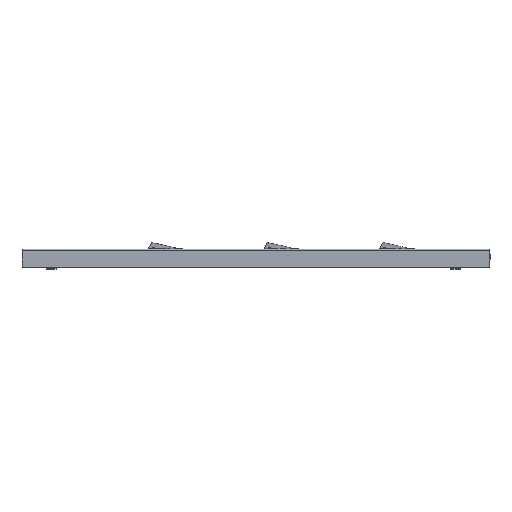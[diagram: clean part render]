
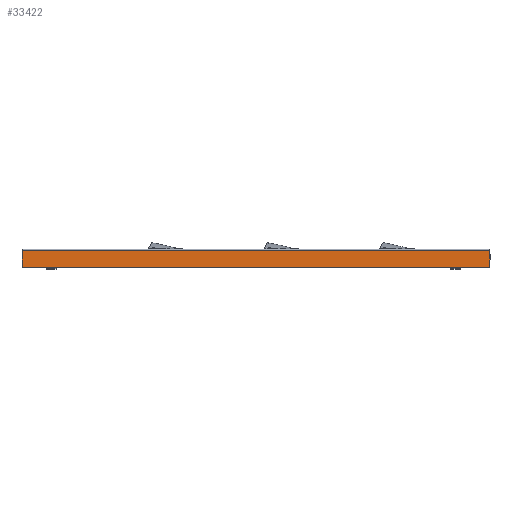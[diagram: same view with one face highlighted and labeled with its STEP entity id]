
A CAD part, left-side view. The second image highlights one B-rep face of the part: STEP entity #33422.
In plain terms, the highlighted planar face has unit normal (-1, 0, 0).
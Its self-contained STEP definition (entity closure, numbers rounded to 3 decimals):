
#928 = VECTOR ( 'NONE', #25845, 1000. ) ;
#1368 = PLANE ( 'NONE',  #5603 ) ;
#2297 = LINE ( 'NONE', #33043, #20428 ) ;
#3576 = CARTESIAN_POINT ( 'NONE',  ( -317.5, 1820., -5. ) ) ;
#5437 = EDGE_CURVE ( 'NONE', #9247, #35333, #2297, .T. ) ;
#5603 = AXIS2_PLACEMENT_3D ( 'NONE', #26162, #31072, #6988 ) ;
#6020 = CIRCLE ( 'NONE', #18166, 3. ) ;
#6210 = VERTEX_POINT ( 'NONE', #24186 ) ;
#6293 = LINE ( 'NONE', #8827, #12535 ) ;
#6850 = CARTESIAN_POINT ( 'NONE',  ( -317.5, 1820., -5. ) ) ;
#6924 = ORIENTED_EDGE ( 'NONE', *, *, #5437, .T. ) ;
#6988 = DIRECTION ( 'NONE',  ( 0., 0., -1. ) ) ;
#7162 = DIRECTION ( 'NONE',  ( 0., 0., 1. ) ) ;
#8308 = ORIENTED_EDGE ( 'NONE', *, *, #31770, .F. ) ;
#8827 = CARTESIAN_POINT ( 'NONE',  ( -317.5, 1820., -70. ) ) ;
#9247 = VERTEX_POINT ( 'NONE', #29229 ) ;
#10308 = EDGE_CURVE ( 'NONE', #20600, #9247, #6020, .T. ) ;
#10398 = VERTEX_POINT ( 'NONE', #6850 ) ;
#11295 = VECTOR ( 'NONE', #7162, 1000. ) ;
#11761 = CARTESIAN_POINT ( 'NONE',  ( -317.5, 0., -67. ) ) ;
#11818 = CIRCLE ( 'NONE', #22775, 3. ) ;
#12135 = ORIENTED_EDGE ( 'NONE', *, *, #10308, .T. ) ;
#12535 = VECTOR ( 'NONE', #31254, 1000. ) ;
#13229 = ORIENTED_EDGE ( 'NONE', *, *, #17110, .T. ) ;
#13346 = DIRECTION ( 'NONE',  ( 0., -1., 0. ) ) ;
#14183 = ORIENTED_EDGE ( 'NONE', *, *, #23001, .T. ) ;
#14672 = CARTESIAN_POINT ( 'NONE',  ( -317.5, 1820., -67. ) ) ;
#15894 = DIRECTION ( 'NONE',  ( -1., 0., 0. ) ) ;
#17110 = EDGE_CURVE ( 'NONE', #35333, #30505, #11818, .T. ) ;
#18166 = AXIS2_PLACEMENT_3D ( 'NONE', #29639, #15894, #34722 ) ;
#19213 = EDGE_LOOP ( 'NONE', ( #6924, #13229, #14183, #8308, #20315, #12135 ) ) ;
#20315 = ORIENTED_EDGE ( 'NONE', *, *, #28612, .F. ) ;
#20428 = VECTOR ( 'NONE', #13346, 1000. ) ;
#20600 = VERTEX_POINT ( 'NONE', #14672 ) ;
#21021 = CARTESIAN_POINT ( 'NONE',  ( -317.5, 3., -67. ) ) ;
#22775 = AXIS2_PLACEMENT_3D ( 'NONE', #21021, #26802, #32591 ) ;
#23001 = EDGE_CURVE ( 'NONE', #30505, #6210, #32145, .T. ) ;
#24186 = CARTESIAN_POINT ( 'NONE',  ( -317.5, 0., -5. ) ) ;
#25845 = DIRECTION ( 'NONE',  ( 0., -1., 0. ) ) ;
#26162 = CARTESIAN_POINT ( 'NONE',  ( -317.5, 1820., -70. ) ) ;
#26802 = DIRECTION ( 'NONE',  ( -1., 0., 0. ) ) ;
#28537 = LINE ( 'NONE', #3576, #928 ) ;
#28612 = EDGE_CURVE ( 'NONE', #20600, #10398, #6293, .T. ) ;
#29229 = CARTESIAN_POINT ( 'NONE',  ( -317.5, 1817., -70. ) ) ;
#29639 = CARTESIAN_POINT ( 'NONE',  ( -317.5, 1817., -67. ) ) ;
#30505 = VERTEX_POINT ( 'NONE', #11761 ) ;
#31072 = DIRECTION ( 'NONE',  ( 1., 0., 0. ) ) ;
#31254 = DIRECTION ( 'NONE',  ( 0., 0., 1. ) ) ;
#31770 = EDGE_CURVE ( 'NONE', #10398, #6210, #28537, .T. ) ;
#31785 = FACE_OUTER_BOUND ( 'NONE', #19213, .T. ) ;
#32145 = LINE ( 'NONE', #34849, #11295 ) ;
#32591 = DIRECTION ( 'NONE',  ( 0., 0., -1. ) ) ;
#32837 = CARTESIAN_POINT ( 'NONE',  ( -317.5, 3., -70. ) ) ;
#33043 = CARTESIAN_POINT ( 'NONE',  ( -317.5, 1820., -70. ) ) ;
#33422 = ADVANCED_FACE ( 'NONE', ( #31785 ), #1368, .F. ) ;
#34722 = DIRECTION ( 'NONE',  ( 0., 0., -1. ) ) ;
#34849 = CARTESIAN_POINT ( 'NONE',  ( -317.5, 0., -70. ) ) ;
#35333 = VERTEX_POINT ( 'NONE', #32837 ) ;
